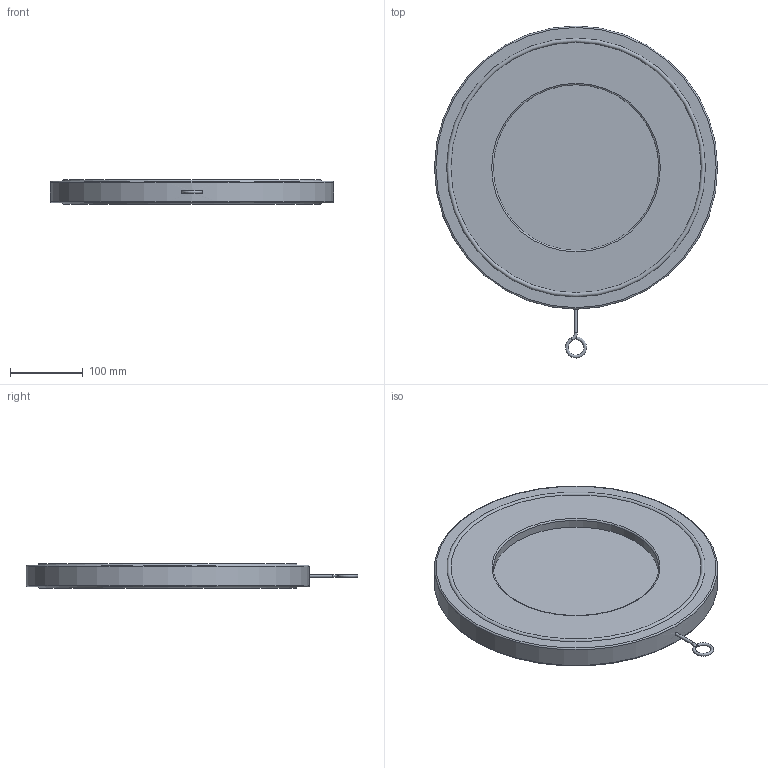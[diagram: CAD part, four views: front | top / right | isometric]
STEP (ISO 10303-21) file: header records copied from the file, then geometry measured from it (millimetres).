
FILE_DESCRIPTION( ( 'Unknown' ), '1' );
FILE_NAME( 'C:/Documents and Settings/Klaus/My Documents/Rootsi BPS 3D, Klaus/BPS 6505 swing check valve/STEP/BPS6505300 swing check valve DN300.stp', 'Unknown', ( 'Unknown' ), ( 'Unknown' ), 'PSStep 10.1', 'Unknown', ' ' );
FILE_SCHEMA( ( 'AUTOMOTIVE_DESIGN { 1 0 10303 214 1 1 1 1 }' ) );
Length unit declared in the file: millimetre
Products named in the file (1): 1
Bounding box: 388 x 454.98 x 33.98 mm (x, y, z)
Volume: 2975125.8 mm3; surface area: 313297.2 mm2
Topology: 1 solids, 1 shells, 217 faces, 529 edges, 347 vertices
Faces by surface type: plane 135, extrusion 59, cylinder 13, torus 9, cone 1
Full cylindrical faces by diameter (mm): 4 x1, 20 x2, 227 x1, 388 x1
Entity records: 10022 total; most frequent: CARTESIAN_POINT 3761, ORIENTED_EDGE 1006, DIRECTION 653, EDGE_CURVE 503, VERTEX_POINT 343, B_SPLINE_CURVE_WITH_KNOTS 328, EDGE_LOOP 276, VECTOR 251
